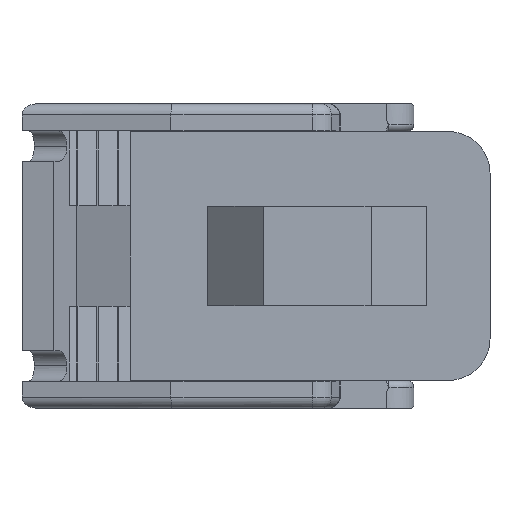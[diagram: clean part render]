
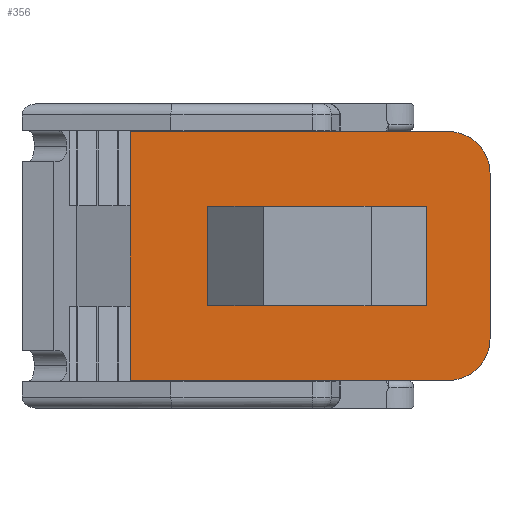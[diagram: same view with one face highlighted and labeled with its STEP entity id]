
A CAD part, left-side view. The second image highlights one B-rep face of the part: STEP entity #356.
In plain terms, the highlighted planar face has unit normal (-1, 0, 0).
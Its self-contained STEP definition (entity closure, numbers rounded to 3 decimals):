
#356=ADVANCED_FACE('NONE',(#985,#986),#987,.T.);
#985=FACE_OUTER_BOUND('',#1894,.T.);
#986=FACE_BOUND('',#1895,.T.);
#987=PLANE('',#1896);
#1894=EDGE_LOOP('',(#3330,#3331,#3332,#3333,#3334,#3335));
#1895=EDGE_LOOP('',(#3336,#3337,#3338,#3339,#3340,#3341));
#1896=AXIS2_PLACEMENT_3D('',#3342,#3343,#3344);
#3330=ORIENTED_EDGE('',*,*,#6002,.T.);
#3331=ORIENTED_EDGE('',*,*,#6003,.T.);
#3332=ORIENTED_EDGE('',*,*,#6004,.T.);
#3333=ORIENTED_EDGE('',*,*,#6005,.T.);
#3334=ORIENTED_EDGE('',*,*,#6006,.T.);
#3335=ORIENTED_EDGE('',*,*,#6007,.T.);
#3336=ORIENTED_EDGE('',*,*,#6008,.F.);
#3337=ORIENTED_EDGE('',*,*,#6009,.F.);
#3338=ORIENTED_EDGE('',*,*,#6010,.F.);
#3339=ORIENTED_EDGE('',*,*,#6011,.F.);
#3340=ORIENTED_EDGE('',*,*,#6012,.F.);
#3341=ORIENTED_EDGE('',*,*,#6013,.F.);
#3342=CARTESIAN_POINT('',(-21.0,2.,20.0));
#3343=DIRECTION('',(-1.0,0.,0.));
#3344=DIRECTION('',(0.,1.0,0.0));
#6002=EDGE_CURVE('NONE',#7134,#7135,#7136,.T.);
#6003=EDGE_CURVE('NONE',#7135,#7137,#7138,.T.);
#6004=EDGE_CURVE('NONE',#7137,#7139,#7140,.T.);
#6005=EDGE_CURVE('NONE',#7139,#7141,#7142,.T.);
#6006=EDGE_CURVE('NONE',#7141,#7143,#7144,.T.);
#6007=EDGE_CURVE('NONE',#7143,#7134,#7145,.T.);
#6008=EDGE_CURVE('NONE',#7146,#7147,#7148,.T.);
#6009=EDGE_CURVE('NONE',#7149,#7146,#7150,.T.);
#6010=EDGE_CURVE('NONE',#7151,#7149,#7152,.T.);
#6011=EDGE_CURVE('NONE',#7153,#7151,#7154,.T.);
#6012=EDGE_CURVE('NONE',#7155,#7153,#7156,.T.);
#6013=EDGE_CURVE('NONE',#7147,#7155,#7157,.T.);
#7134=VERTEX_POINT('NONE',#8774);
#7135=VERTEX_POINT('NONE',#8775);
#7136=LINE('',#8776,#8777);
#7137=VERTEX_POINT('NONE',#8778);
#7138=CIRCLE('',#8779,3.0);
#7139=VERTEX_POINT('NONE',#8780);
#7140=LINE('',#8781,#8782);
#7141=VERTEX_POINT('NONE',#8783);
#7142=CIRCLE('',#8784,3.0);
#7143=VERTEX_POINT('NONE',#8785);
#7144=LINE('',#8786,#8787);
#7145=LINE('',#8788,#8789);
#7146=VERTEX_POINT('NONE',#8790);
#7147=VERTEX_POINT('NONE',#8791);
#7148=LINE('',#8792,#8793);
#7149=VERTEX_POINT('NONE',#8794);
#7150=LINE('',#8795,#8796);
#7151=VERTEX_POINT('NONE',#8797);
#7152=CIRCLE('',#8798,4.7);
#7153=VERTEX_POINT('NONE',#8799);
#7154=LINE('',#8800,#8801);
#7155=VERTEX_POINT('NONE',#8802);
#7156=LINE('',#8803,#8804);
#7157=CIRCLE('',#8805,4.7);
#8774=CARTESIAN_POINT('',(-21.0,2.,2.0));
#8775=CARTESIAN_POINT('',(-21.0,-21.0,2.0));
#8776=CARTESIAN_POINT('',(-21.0,2.,2.0));
#8777=VECTOR('',#11362,1000.0);
#8778=CARTESIAN_POINT('',(-21.0,-24.0,5.0));
#8779=AXIS2_PLACEMENT_3D('',#11363,#11364,#11365);
#8780=CARTESIAN_POINT('',(-21.0,-24.0,17.0));
#8781=CARTESIAN_POINT('',(-21.0,-24.0,20.0));
#8782=VECTOR('',#11366,1000.0);
#8783=CARTESIAN_POINT('',(-21.0,-21.0,20.0));
#8784=AXIS2_PLACEMENT_3D('',#11367,#11368,#11369);
#8785=CARTESIAN_POINT('',(-21.0,2.,20.0));
#8786=CARTESIAN_POINT('',(-21.0,2.,20.0));
#8787=VECTOR('',#11370,1000.0);
#8788=CARTESIAN_POINT('',(-21.0,2.,20.0));
#8789=VECTOR('',#11371,1000.0);
#8790=CARTESIAN_POINT('',(-21.0,-15.5,7.6));
#8791=CARTESIAN_POINT('',(-21.0,-15.5,9.7));
#8792=CARTESIAN_POINT('',(-21.0,-15.5,9.7));
#8793=VECTOR('',#11372,1000.0);
#8794=CARTESIAN_POINT('',(-21.0,-12.2,7.6));
#8795=CARTESIAN_POINT('',(-21.0,-12.2,7.6));
#8796=VECTOR('',#11373,1000.0);
#8797=CARTESIAN_POINT('',(-21.0,-7.5,12.3));
#8798=AXIS2_PLACEMENT_3D('',#11374,#11375,#11376);
#8799=CARTESIAN_POINT('',(-21.0,-7.5,14.4));
#8800=CARTESIAN_POINT('',(-21.0,-7.5,14.4));
#8801=VECTOR('',#11377,1000.0);
#8802=CARTESIAN_POINT('',(-21.0,-10.8,14.4));
#8803=CARTESIAN_POINT('',(-21.0,-7.5,14.4));
#8804=VECTOR('',#11378,1000.0);
#8805=AXIS2_PLACEMENT_3D('',#11379,#11380,#11381);
#11362=DIRECTION('',(0.,-1.0,0.));
#11363=CARTESIAN_POINT('',(-21.0,-21.0,5.0));
#11364=DIRECTION('',(-1.0,0.0,0.));
#11365=DIRECTION('',(0.0,-1.0,0.0));
#11366=DIRECTION('',(-0.0,-0.0,1.0));
#11367=CARTESIAN_POINT('',(-21.0,-21.0,17.0));
#11368=DIRECTION('',(-1.0,0.0,0.));
#11369=DIRECTION('',(0.0,-1.0,0.0));
#11370=DIRECTION('',(0.,1.0,0.));
#11371=DIRECTION('',(0.0,0.,-1.0));
#11372=DIRECTION('',(-0.0,0.,1.0));
#11373=DIRECTION('',(0.0,-1.0,0.));
#11374=CARTESIAN_POINT('',(-21.0,-12.2,12.3));
#11375=DIRECTION('',(-1.0,0.0,0.));
#11376=DIRECTION('',(0.0,-1.0,0.0));
#11377=DIRECTION('',(0.0,0.,-1.0));
#11378=DIRECTION('',(0.,1.0,-0.0));
#11379=CARTESIAN_POINT('',(-21.0,-10.8,9.7));
#11380=DIRECTION('',(-1.0,0.0,0.));
#11381=DIRECTION('',(0.0,1.0,0.0));
